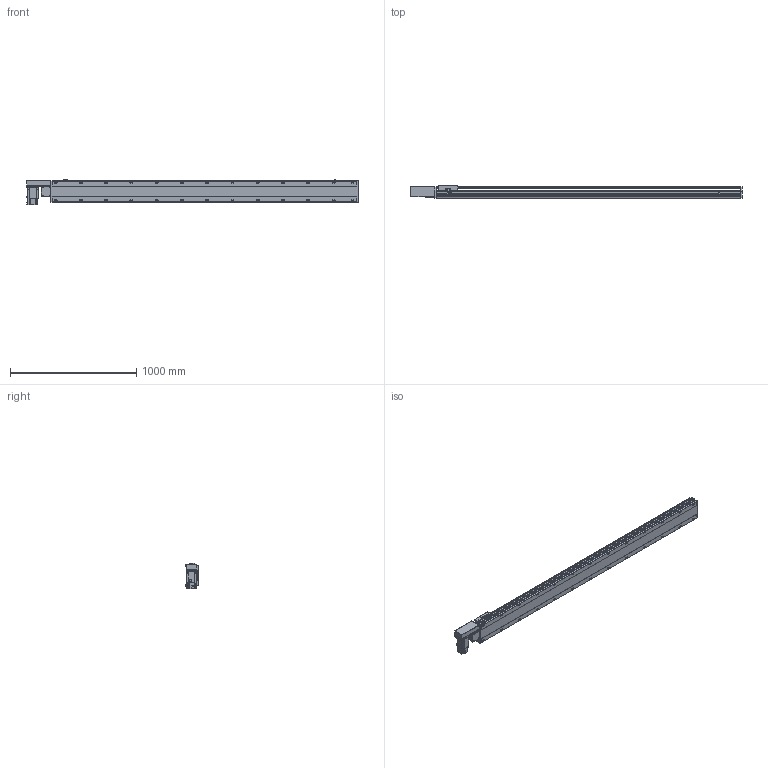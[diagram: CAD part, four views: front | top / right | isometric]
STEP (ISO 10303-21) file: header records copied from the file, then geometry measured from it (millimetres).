
FILE_DESCRIPTION( ( 'STEP AP214' ), '1' );
FILE_NAME( 'x:/temp/worker_4/temp/exporttempdir_2248_289_GAaol/format_0/PBS170-P40-S2150-R-T75-C1-N(0).stp', '2022-06-07T07:31:48', ( 'License CC BY-ND 4.0' ), ( 'CADENAS' ), ' ', 'PARTsolutions', ' ' );
FILE_SCHEMA( ( 'AUTOMOTIVE_DESIGN { 1 0 10303 214 1 1 1 1 }' ) );
Length unit declared in the file: millimetre
Products named in the file (7): PBS170-P40-S2150-R-T75-C1-N(0); _PBS170-S2150()_body; _PBS170T-R_motors; _T75-p1; _PBS170_sliser; _PBS170_plant; _PBS170_sensor
Assembly tree (8 placements, depth 2):
  PBS170-P40-S2150-R-T75-C1-N(0)
    _PBS170-S2150()_body
    _PBS170T-R_motors
    _T75-p1
    _PBS170_sliser
    _PBS170_plant
    _PBS170_sensor  x3
Bounding box: 2628 x 97 x 205.3 mm (x, y, z)
Volume: 19185099.4 mm3; surface area: 2428560.4 mm2
Topology: 8 solids, 8 shells, 1162 faces, 3075 edges, 2004 vertices
Faces by surface type: plane 717, cylinder 379, cone 56, sphere 8, torus 2
Full cylindrical faces by diameter (mm): 3.242 x4, 4 x2, 4.4 x4, 4.5 x6, 4.917 x4, 6 x9, 6.647 x34, 7 x2, 7.5 x4, 8 x8, 8.5 x26, 10 x4, 10.5 x26, 11 x2, 30 x2, 40 x1, 70 x1
Entity records: 42950 total; most frequent: CARTESIAN_POINT 7061, DIRECTION 5650, ORIENTED_EDGE 5328, EDGE_CURVE 2664, AXIS2_PLACEMENT_3D 1987, VERTEX_POINT 1850, LINE 1676, VECTOR 1676
